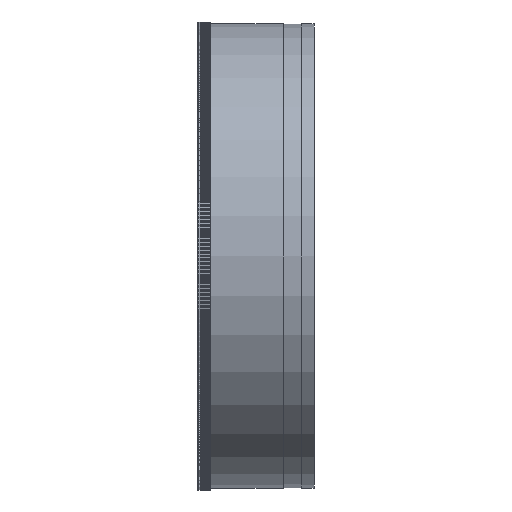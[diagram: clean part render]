
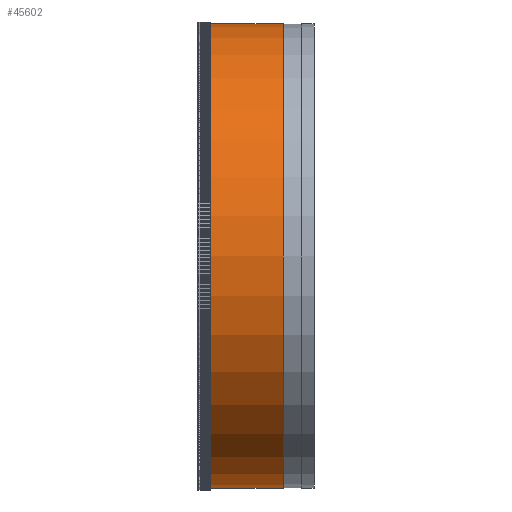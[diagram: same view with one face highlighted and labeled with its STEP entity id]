
A CAD part, front view. The second image highlights one B-rep face of the part: STEP entity #45602.
In plain terms, the highlighted cylindrical face has radius 360 mm (diameter 720 mm), a full revolution.
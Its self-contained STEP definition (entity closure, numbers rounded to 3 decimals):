
#188=FACE_BOUND('',#6624,.T.);
#1300=CIRCLE('',#48889,360.);
#1389=CIRCLE('',#49041,360.);
#1988=CYLINDRICAL_SURFACE('',#49040,360.);
#4220=FACE_OUTER_BOUND('',#6623,.T.);
#6623=EDGE_LOOP('',(#41731));
#6624=EDGE_LOOP('',(#41732));
#21812=VERTEX_POINT('',#74373);
#21901=VERTEX_POINT('',#74614);
#28424=EDGE_CURVE('',#21812,#21812,#1300,.T.);
#28513=EDGE_CURVE('',#21901,#21901,#1389,.T.);
#41731=ORIENTED_EDGE('',*,*,#28424,.T.);
#41732=ORIENTED_EDGE('',*,*,#28513,.F.);
#45602=ADVANCED_FACE('',(#4220,#188),#1988,.T.);
#48889=AXIS2_PLACEMENT_3D('',#74374,#61011,#61012);
#49040=AXIS2_PLACEMENT_3D('',#74613,#61313,#61314);
#49041=AXIS2_PLACEMENT_3D('',#74615,#61315,#61316);
#61011=DIRECTION('center_axis',(1.,0.,0.));
#61012=DIRECTION('ref_axis',(0.,1.,0.));
#61313=DIRECTION('center_axis',(1.,0.,0.));
#61314=DIRECTION('ref_axis',(0.,1.,0.));
#61315=DIRECTION('center_axis',(1.,0.,0.));
#61316=DIRECTION('ref_axis',(0.,1.,0.));
#74373=CARTESIAN_POINT('',(-70.,360.,0.));
#74374=CARTESIAN_POINT('Origin',(-70.,0.,0.));
#74613=CARTESIAN_POINT('Origin',(36.,0.,0.));
#74614=CARTESIAN_POINT('',(42.,360.,0.));
#74615=CARTESIAN_POINT('Origin',(42.,0.,0.));
